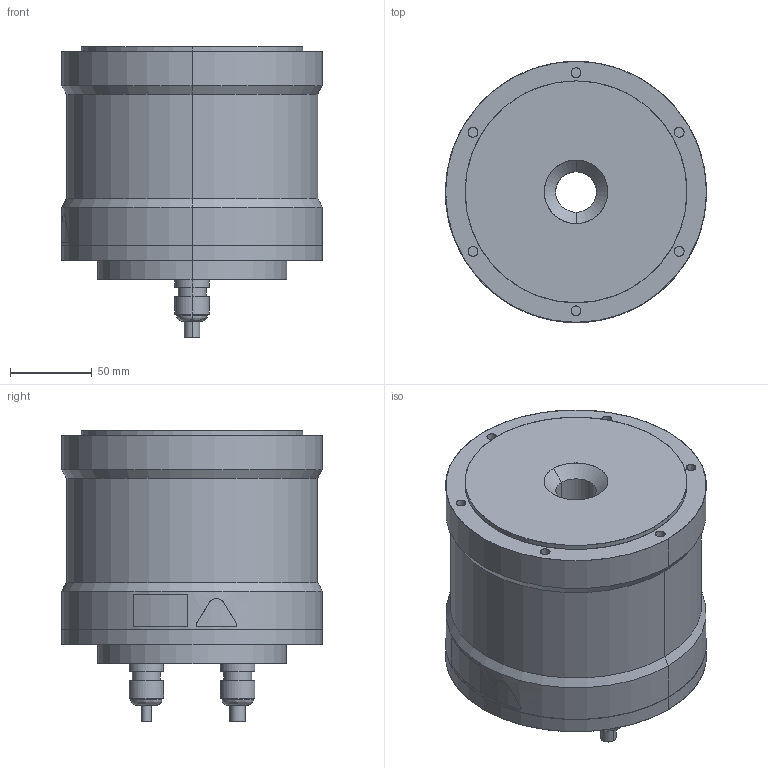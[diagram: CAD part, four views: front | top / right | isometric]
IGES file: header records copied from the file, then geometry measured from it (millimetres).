
Start section: SolidWorks IGES file using analytic representation for surfaces
Bounding box: 160.06 x 160 x 178.4 mm (x, y, z)
Surface area: 129195 mm2 (no closed solid volume)
Topology: 0 solids, 0 shells, 211 faces, 4654 edges, 4654 vertices
Faces by surface type: revolution 128, bspline 83
